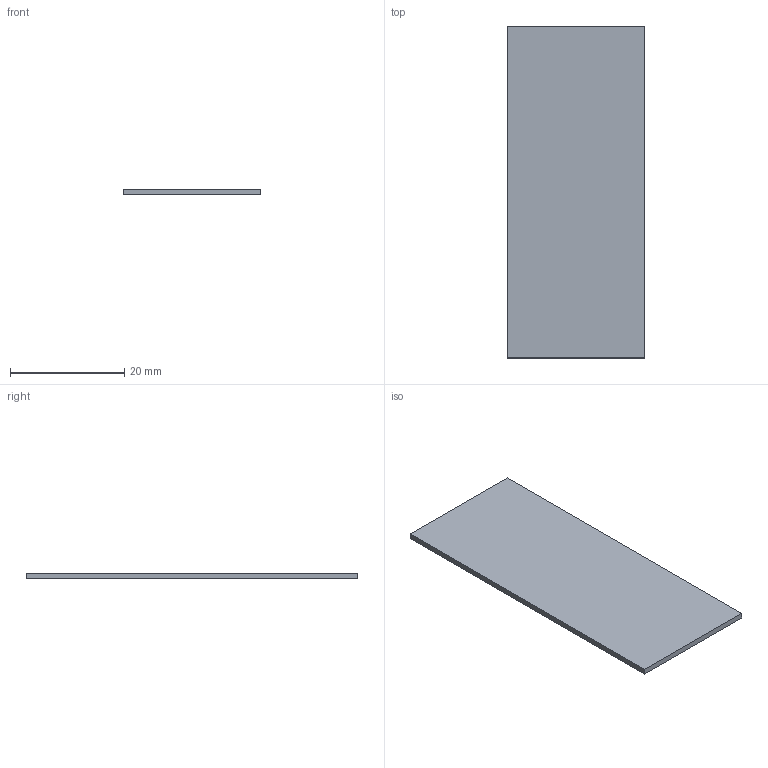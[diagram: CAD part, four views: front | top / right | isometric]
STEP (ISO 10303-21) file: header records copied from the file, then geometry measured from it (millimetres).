
FILE_DESCRIPTION(('Open CASCADE Model'),'2;1');
FILE_NAME('Open CASCADE Shape Model','2026-10-04T02:31:37',('Author'),( 'Open CASCADE'),'Open CASCADE STEP processor 8.0','Open CASCADE 8.0' ,'Unknown');
FILE_SCHEMA(('AUTOMOTIVE_DESIGN { 1 0 10303 214 1 1 1 1 }'));
Length unit declared in the file: millimetre
Products named in the file (1): Open CASCADE STEP translator 8.0 88
Bounding box: 24 x 58 x 1 mm (x, y, z)
Volume: 1392 mm3; surface area: 2948 mm2
Topology: 1 solids, 1 shells, 6 faces, 12 edges, 8 vertices
Faces by surface type: plane 6
Entity records: 322 total; most frequent: CARTESIAN_POINT 51, DIRECTION 50, LINE 36, VECTOR 36, ORIENTED_EDGE 24, PCURVE 24, DEFINITIONAL_REPRESENTATION 24, EDGE_CURVE 12
